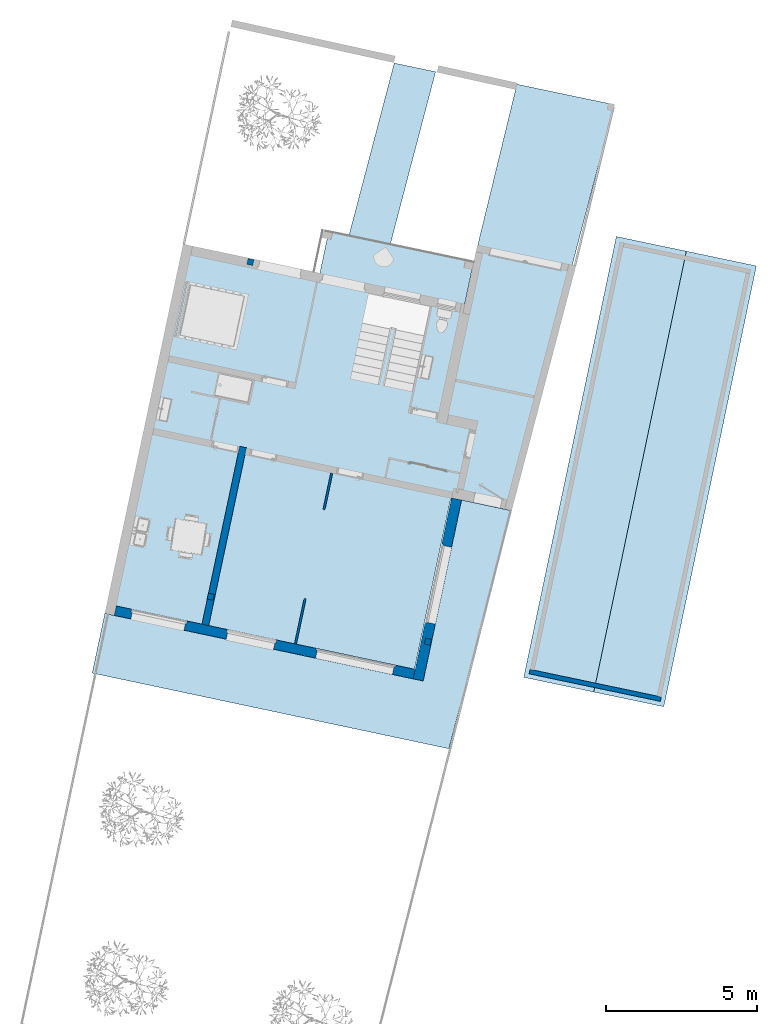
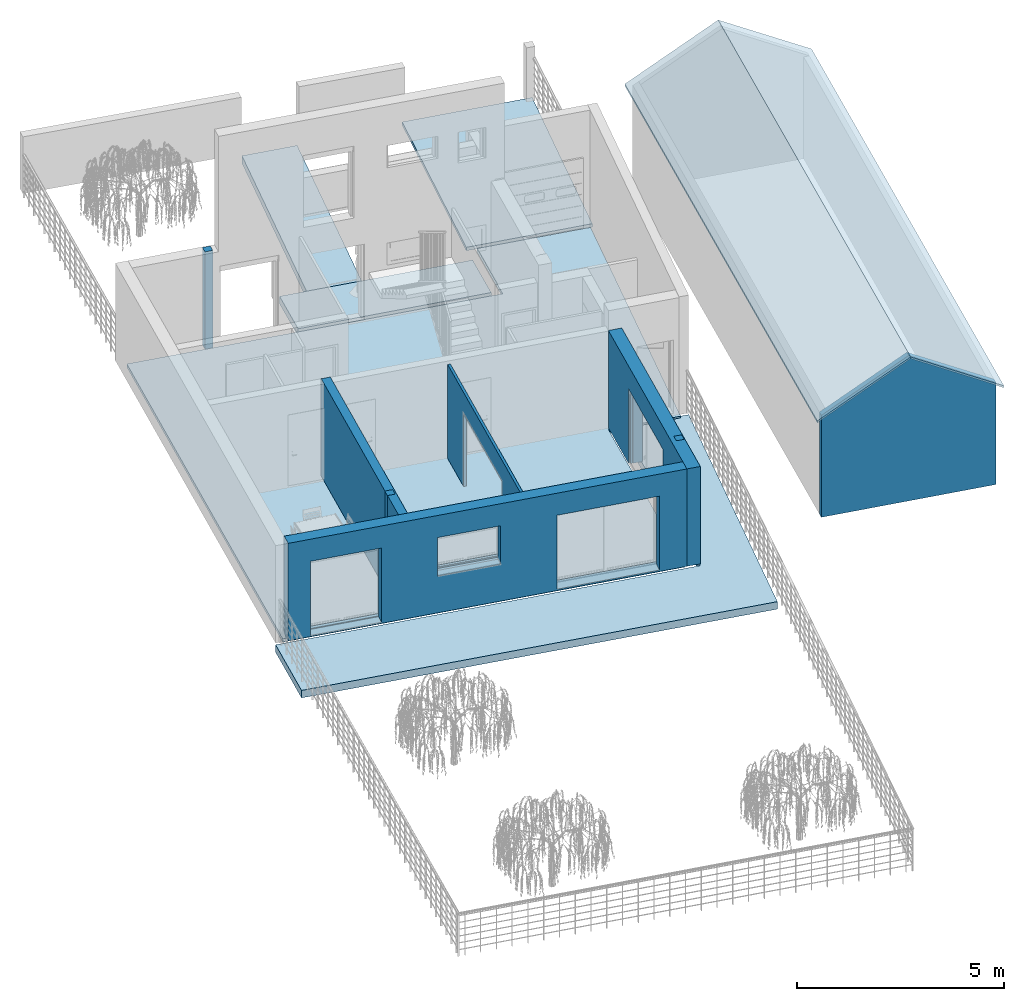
# One storey, part 1 of 20: 7 slabs, 5 walls, 3 columns, 5 openings, 1 element without a shape of its own.
"""IFC2X3 building model written with IfcOpenShell, lengths in metres."""

from ifc_helpers import new_model, entity, si_unit, converted_unit, derived_unit, direction, frame, frame_2d, origin, origin_2d_with_axis, place, context, subcontext, project, spatial, polyline, rectangle, outline, extrude, clip, bounded_halfspace, faceted_brep, source, transform, mapped, material, layer, layer_set, layer_usage, type_object, type_shapes, element, aggregate, save


model = new_model("IFC2X3")

# Units and contexts
model_context = context("Model", 3, precision=1e-05, world=origin(), true_north=direction((6.12303176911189e-17, 1.0)))
body_context = subcontext(model_context, "Body", "Model", "MODEL_VIEW")
ifc_project = project(units=[si_unit("LENGTHUNIT", "METRE"), si_unit("AREAUNIT", "SQUARE_METRE"), si_unit("VOLUMEUNIT", "CUBIC_METRE"), converted_unit("PLANEANGLEUNIT", "DEGREE", entity("IfcRatioMeasure", 0.0174532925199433), si_unit("PLANEANGLEUNIT", "RADIAN"), dimensions=[0, 0, 0, 0, 0, 0, 0]), si_unit("MASSUNIT", "GRAM", prefix="KILO"), derived_unit("MASSDENSITYUNIT", [(si_unit("MASSUNIT", "GRAM", prefix="KILO"), 1), (si_unit("LENGTHUNIT", "METRE"), -3)]), si_unit("TIMEUNIT", "SECOND"), si_unit("FREQUENCYUNIT", "HERTZ"), si_unit("THERMODYNAMICTEMPERATUREUNIT", "DEGREE_CELSIUS"), derived_unit("THERMALTRANSMITTANCEUNIT", [(si_unit("MASSUNIT", "GRAM", prefix="KILO"), 1), (si_unit("THERMODYNAMICTEMPERATUREUNIT", "KELVIN"), -1), (si_unit("TIMEUNIT", "SECOND"), -3)]), derived_unit("VOLUMETRICFLOWRATEUNIT", [(si_unit("LENGTHUNIT", "METRE"), 3), (si_unit("TIMEUNIT", "SECOND"), -1)]), si_unit("ELECTRICCURRENTUNIT", "AMPERE"), si_unit("ELECTRICVOLTAGEUNIT", "VOLT"), si_unit("POWERUNIT", "WATT"), si_unit("FORCEUNIT", "NEWTON", prefix="KILO"), si_unit("ILLUMINANCEUNIT", "LUX"), si_unit("LUMINOUSFLUXUNIT", "LUMEN"), si_unit("LUMINOUSINTENSITYUNIT", "CANDELA"), derived_unit("USERDEFINED", [(si_unit("MASSUNIT", "GRAM", prefix="KILO"), -1), (si_unit("LENGTHUNIT", "METRE"), -2), (si_unit("TIMEUNIT", "SECOND"), 3), (si_unit("LUMINOUSFLUXUNIT", "LUMEN"), 1)]), derived_unit("LINEARVELOCITYUNIT", [(si_unit("LENGTHUNIT", "METRE"), 1), (si_unit("TIMEUNIT", "SECOND"), -1)]), si_unit("PRESSUREUNIT", "PASCAL"), derived_unit("USERDEFINED", [(si_unit("LENGTHUNIT", "METRE"), -2), (si_unit("MASSUNIT", "GRAM", prefix="KILO"), 1), (si_unit("TIMEUNIT", "SECOND"), -2)])], contexts=[model_context])

# Site, building, storey
site_placement = place(None, origin())
site = spatial("IfcSite", under=ifc_project, at=site_placement, Name="Default", CompositionType="ELEMENT")
building_placement = place(site_placement, origin())
building = spatial("IfcBuilding", under=site, at=building_placement, CompositionType="ELEMENT")
storey_placement = place(building_placement, frame((0.0, 0.0, -0.0686871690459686)))
storey = spatial("IfcBuildingStorey", under=building, at=storey_placement, Name="RDC", CompositionType="ELEMENT", Elevation=-0.0686871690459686)

# Columns
ifc_material_1 = material(Name="Béton - Béton coulé sur place")
column_type_1 = type_object("IfcColumnType", Name="20 X 20", PredefinedType="COLUMN")
shared_shape_1 = source(origin(), body_context, "Body", "SweptSolid", [
    extrude(rectangle(XDim=0.200000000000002, YDim=0.2, at=origin_2d_with_axis()), frame((-18.9077382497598, 75.6113997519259, -0.0686871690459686), z_axis=(0.0, 0.0, 1.0), x_axis=(0.205556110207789, 0.978645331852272, 0.0)), (0.0, 0.0, 1.0), 2.86868716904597),
])
type_shapes(column_type_1, [shared_shape_1])
column_placement = place(storey_placement, frame((0.0, 0.0, 0.0686871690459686)))
element("IfcColumn", 1, at=column_placement, inside=storey, type_object=column_type_1, material=ifc_material_1, Name="M_Béton-Carré-Poteau:20 X 20", ObjectType="M_Béton-Carré-Poteau:20 X 20", context=body_context, shape_type="MappedRepresentation", body=[
    mapped(shared_shape_1, transform((0.0, 0.0, 0.0), scale=1.0)),
])
column_type_2 = type_object("IfcColumnType", Name="20 X 20", PredefinedType="COLUMN")
shared_shape_2 = source(origin(), body_context, "Body", "SweptSolid", [
    extrude(rectangle(XDim=0.2, YDim=0.2, at=origin_2d_with_axis()), frame((0.0, 0.0, -0.0686871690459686), z_axis=(0.0, 0.0, 1.0), x_axis=(0.0, -1.0, 0.0)), (0.0, 0.0, 1.0), 2.86868716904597),
])
type_shapes(column_type_2, [shared_shape_2])
for number, where, z_axis, x_axis in (
    (2, (-17.5943408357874, 86.6890916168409, 0.0686871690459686), (0.0, 0.0, 1.0), (-0.978645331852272, 0.205556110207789, 0.0)),
    (3, (-11.7156370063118, 74.1211969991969, 0.0686871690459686), (0.0, 0.0, 1.0), (-0.978645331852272, 0.205556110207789, 0.0)),
):
    element("IfcColumn", number, at=place(storey_placement, frame(where, z_axis=z_axis, x_axis=x_axis)), inside=storey, type_object=column_type_2, material=ifc_material_1, Name="M_Béton-Carré-Poteau:20 X 20", ObjectType="M_Béton-Carré-Poteau:20 X 20", context=body_context, shape_type="MappedRepresentation", body=[
        mapped(shared_shape_2, transform((0.0, 0.0, 0.0), scale=1.0)),
    ])

# Slabs
ifc_material_2 = material(Name="Peinture - Or")
ifc_layer_1 = layer(ifc_material_2, 0.1)
ifc_layer_set_1 = layer_set([ifc_layer_1], Name="Sol:Dalle Béton butume commun 10 cm 2")
ifc_layer_usage_1 = layer_usage(ifc_layer_set_1, "AXIS3", "POSITIVE", 0.0)
slab_type_1 = type_object("IfcSlabType", Name="Sol:Dalle Béton butume commun 10 cm 2", PredefinedType="FLOOR", material=ifc_layer_set_1)
slab_1_placement = place(storey_placement, origin())
element("IfcSlab", 4, at=slab_1_placement, inside=storey, type_object=slab_type_1, material=ifc_layer_usage_1, Name="Sol:Dalle Béton butume commun 10 cm 2", ObjectType="Sol:Dalle Béton butume commun 10 cm 2", PredefinedType="FLOOR", context=body_context, shape_type="SweptSolid", body=[
    extrude(outline(polyline([(-7.98877034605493, 4.09640864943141), (-7.98877034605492, -8.06359135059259), (2.2064421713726, -8.06359135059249), (2.20644217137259, -2.12922594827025), (4.03899946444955, -2.12922594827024), (4.43277347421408, 6.09640864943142), (1.54644170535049, 6.09640864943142), (1.54644170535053, 4.09640864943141), (-7.98877034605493, 4.09640864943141)])), frame((-12.6864413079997, 81.3582309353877, 0.0), z_axis=(0.0, 0.0, 1.0), x_axis=(0.978238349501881, -0.207484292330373, 0.0)), (0.0, 0.0, -1.0), 0.1),
])
ifc_material_3 = material(Name="TERRASSE EXT")
ifc_layer_2 = layer(ifc_material_3, 0.02)
ifc_material_4 = material(Name="planchers interieurs")
ifc_layer_3 = layer(ifc_material_4, 0.2)
ifc_layer_set_2 = layer_set([ifc_layer_2, ifc_layer_3], Name="Sol:terrasse  EXT CARRELE")
ifc_layer_usage_2 = layer_usage(ifc_layer_set_2, "AXIS3", "POSITIVE", 0.0)
slab_type_2 = type_object("IfcSlabType", Name="Sol:terrasse  EXT CARRELE", PredefinedType="FLOOR", material=ifc_layer_set_2)
slab_2_placement = place(storey_placement, origin())
element("IfcSlab", 5, at=slab_2_placement, inside=storey, type_object=slab_type_2, material=ifc_layer_usage_2, Name="Sol:terrasse  EXT CARRELE", ObjectType="Sol:terrasse  EXT CARRELE", PredefinedType="FLOOR", context=body_context, shape_type="SweptSolid", body=[
    extrude(outline(polyline([(-7.68299505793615, -1.36879085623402), (-7.68285655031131, -3.38788246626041), (4.39082925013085, -3.38705378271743), (4.7897240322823, 4.75552374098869), (3.09264916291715, 4.75699422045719), (3.09264916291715, -1.36879085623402), (-7.68299505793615, -1.36879085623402)])), frame((-14.6147123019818, 74.8004948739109, -0.05), z_axis=(0.0, 0.0, 1.0), x_axis=(0.978224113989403, -0.207551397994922, 0.0)), (0.0, 0.0, -1.0), 0.22),
])
ifc_layer_usage_3 = layer_usage(ifc_layer_set_2, "AXIS3", "POSITIVE", 0.0)
slab_type_3 = type_object("IfcSlabType", Name="Sol:terrasse  EXT CARRELE", PredefinedType="FLOOR", material=ifc_layer_set_2)
slab_3_placement = place(storey_placement, origin())
element("IfcSlab", 6, at=slab_3_placement, inside=storey, type_object=slab_type_3, material=ifc_layer_usage_3, Name="Sol:terrasse  EXT CARRELE", ObjectType="Sol:terrasse  EXT CARRELE", PredefinedType="FLOOR", context=body_context, shape_type="SweptSolid", body=[
    extrude(outline(polyline([(-2.98858599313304, -0.699999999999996), (2.91874994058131, -0.699999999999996), (2.988585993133, 0.700000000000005), (-2.91874994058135, 0.700000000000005), (-2.98858599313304, -0.699999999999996)])), frame((-12.8976450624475, 90.2767664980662, -0.05), z_axis=(0.0, 0.0, -1.0), x_axis=(-0.254023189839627, -0.967198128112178, 0.0)), (0.0, 0.0, 1.0), 0.22),
])
ifc_layer_usage_4 = layer_usage(ifc_layer_set_2, "AXIS3", "POSITIVE", 0.0)
slab_type_4 = type_object("IfcSlabType", Name="Sol:terrasse  EXT CARRELE", PredefinedType="FLOOR", material=ifc_layer_set_2)
slab_4_placement = place(storey_placement, origin())
element("IfcSlab", 7, at=slab_4_placement, inside=storey, type_object=slab_type_4, material=ifc_layer_usage_4, Name="Sol:terrasse  EXT CARRELE", ObjectType="Sol:terrasse  EXT CARRELE", PredefinedType="FLOOR", context=body_context, shape_type="SweptSolid", body=[
    extrude(rectangle(XDim=1.4399991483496, YDim=4.90385703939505, at=frame_2d((-8.43769498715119e-15, 1.77635683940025e-15), x_axis=(1.0, 0.0))), frame((-12.7520738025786, 86.4961294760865, -0.05), z_axis=(0.0, 0.0, -1.0), x_axis=(-0.205556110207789, -0.978645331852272, 0.0)), (0.0, 0.0, 1.0), 0.22),
])
ifc_material_5 = material(Name="Béton rue")
ifc_layer_4 = layer(ifc_material_5, 0.1)
ifc_layer_set_3 = layer_set([ifc_layer_4], Name="Sol:Dalle Béton  rue - 10 cm")
ifc_layer_usage_5 = layer_usage(ifc_layer_set_3, "AXIS3", "POSITIVE", 0.0)
slab_type_5 = type_object("IfcSlabType", Name="Sol:Dalle Béton  rue - 10 cm", PredefinedType="FLOOR", material=ifc_layer_set_3)
slab_5_placement = place(storey_placement, origin())
element("IfcSlab", 8, at=slab_5_placement, inside=storey, type_object=slab_type_5, material=ifc_layer_usage_5, Name="Sol:Dalle Béton  rue - 10 cm", ObjectType="Sol:Dalle Béton  rue - 10 cm", PredefinedType="FLOOR", context=body_context, shape_type="SweptSolid", body=[
    extrude(outline(polyline([(-1.53803303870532, -2.74862589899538), (1.76196696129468, -2.74862589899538), (1.48794579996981, 2.7486258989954), (-1.71187972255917, 2.74862589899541), (-1.53803303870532, -2.74862589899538)])), frame((-7.8324526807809, 89.5719451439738, -0.05), z_axis=(0.0, 0.0, -1.0), x_axis=(0.978645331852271, -0.205556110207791, 0.0)), (0.0, 0.0, 1.0), 0.1),
])

# Roof, slabs
roof_placement = place(storey_placement, frame((-8.54607291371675, 71.9663239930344, 2.91339745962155)))
roof = element("IfcRoof", 9, at=roof_placement, inside=storey, Name="Toit de base:Toit - 100 rouge", ObjectType="Toit de base:Toit - 100 rouge", ShapeType="NOTDEFINED")
ifc_material_6 = material(Name="Appui")
ifc_layer_5 = layer(ifc_material_6, 0.05)
ifc_layer_set_4 = layer_set([ifc_layer_5], Name="Toit de base:Toit - 100 rouge")
slab_6_placement = place(roof_placement, origin())
slab_6 = element("IfcSlab", 10, at=slab_6_placement, material=ifc_layer_set_4, Name="Toit de base:Toit - 100 rouge", ObjectType="Toit de base:Toit - 100 rouge", PredefinedType="ROOF", context=body_context, shape_type="SweptSolid", body=[
    extrude(rectangle(XDim=14.9140350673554, YDim=2.73664027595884, at=frame_2d((3.77475828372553e-15, -8.88178419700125e-16), x_axis=(-0.235661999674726, -0.971835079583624))), frame((5.01168411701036, 7.54137276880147, 0.684160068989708), z_axis=(0.489326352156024, -0.102760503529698, 0.86602540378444), x_axis=(0.872100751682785, 0.0576578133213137, -0.485917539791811)), (-0.485917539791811, 0.117830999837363, 0.86602540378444), 0.0577350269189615),
])
slab_7_placement = place(roof_placement, origin())
slab_7 = element("IfcSlab", 11, at=slab_7_placement, material=ifc_layer_set_4, Name="Toit de base:Toit - 100 rouge", ObjectType="Toit de base:Toit - 100 rouge", PredefinedType="ROOF", context=body_context, shape_type="SweptSolid", body=[
    extrude(rectangle(XDim=2.73664027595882, YDim=14.9140350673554, at=frame_2d((-8.10462807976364e-15, -7.99360577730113e-15), x_axis=(-0.971835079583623, 0.23566199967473))), frame((2.69227720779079, 8.02845755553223, 0.684160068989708), z_axis=(-0.489326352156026, 0.102760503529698, 0.866025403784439), x_axis=(0.872100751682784, 0.057657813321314, 0.485917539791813)), (0.485917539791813, -0.117830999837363, 0.866025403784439), 0.0577350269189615),
])
aggregate(roof, [slab_6, slab_7])

# Wall, opening
ifc_material_7 = material(Name="Enduit blanc cassé2")
ifc_layer_6 = layer(ifc_material_7, 0.02)
ifc_material_8 = material(Name="Parpaing")
ifc_layer_7 = layer(ifc_material_8, 0.2)
ifc_material_9 = material(Name="Isolant")
ifc_layer_8 = layer(ifc_material_9, 0.12)
ifc_layer_set_5 = layer_set([ifc_layer_6, ifc_layer_7, ifc_layer_8], Name="Mur de base:Ext. Parpaing 20 + Isolant 12 enduit blanc cassé 2")
ifc_layer_usage_6 = layer_usage(ifc_layer_set_5, "AXIS2", "POSITIVE", -0.17)
wall_type_1 = type_object("IfcWallType", Name="Mur de base:Ext. Parpaing 20 + Isolant 12 enduit blanc cassé 2", PredefinedType="STANDARD", material=ifc_layer_set_5)
wall_1_placement = place(storey_placement, frame((-12.0401167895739, 72.8555040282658, 0.0), z_axis=(0.0, 0.0, 1.0), x_axis=(0.207484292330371, 0.978238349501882, 0.0)))
wall_1 = element("IfcWallStandardCase", 12, at=wall_1_placement, inside=storey, type_object=wall_type_1, material=ifc_layer_usage_6, Name="Mur de base:Ext. Parpaing 20 + Isolant 12 enduit blanc cassé 2", ObjectType="Mur de base:Ext. Parpaing 20 + Isolant 12 enduit blanc cassé 2", context=body_context, shape_type="SweptSolid", body=[
    extrude(rectangle(XDim=6.12478728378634, YDim=0.34, at=frame_2d((3.06239364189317, 1.55431223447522e-15), x_axis=(-1.0, 0.0))), origin(), (0.0, 0.0, 1.0), 2.86868716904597),
])
opening_1_placement = place(wall_1_placement, frame((1.72181819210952, 0.456950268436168, -0.0350000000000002), z_axis=(0.0, 0.0, 1.0), x_axis=(0.207484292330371, -0.978238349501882, 0.0)))
element("IfcOpeningElement", 13, at=opening_1_placement, cuts=wall_1, Name="Mur de base:Ext. Parpaing 20 + Isolant 12 enduit blanc cassé 2", ObjectType="Opening", context=body_context, shape_type="Brep", body=[
    faceted_brep([(0.401077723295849, 0.122415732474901, 0.0350000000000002), (0.72683378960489, 0.0533228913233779, 0.0), (0.978238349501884, 0.0, 0.0), (0.978238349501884, 0.0, 2.185), (0.420642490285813, 0.118266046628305, 2.185), (0.420642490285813, 0.118266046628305, 0.0350000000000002), (0.539459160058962, 2.75090400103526, 0.035), (0.539459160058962, 2.75090400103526, 2.185), (0.862277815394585, 2.68243418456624, 2.185), (0.862277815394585, 2.68243418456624, 0.0350000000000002), (0.0, 0.207484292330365, 0.035), (0.872652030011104, 2.73134610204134, 0.0350000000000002), (0.921563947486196, 2.72097188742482, 0.0350000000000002), (0.913264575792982, 2.68184235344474, 0.0350000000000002), (0.96217649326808, 2.67146813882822, 0.0350000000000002), (0.960101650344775, 2.6616857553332, 0.0349999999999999), (0.940536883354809, 2.66583544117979, 0.0350000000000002), (0.418567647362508, 0.108483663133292, 0.0350000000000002), (0.36965572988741, 0.118857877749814, 0.0350000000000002), (0.361356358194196, 0.0797283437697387, 0.0350000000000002), (0.312444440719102, 0.0901025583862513, 0.0350000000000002), (0.322818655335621, 0.139014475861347, 0.0350000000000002), (0.0, 0.207484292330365, 2.185), (0.322818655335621, 0.139014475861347, 2.185), (1.51769750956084, 2.54341970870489, 0.0), (1.51769750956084, 2.54341970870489, 2.185), (1.26629294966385, 2.59674260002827, 0.0), (0.361356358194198, 0.07972834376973, 2.235), (0.312444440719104, 0.0901025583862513, 2.235), (0.36965572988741, 0.118857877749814, 2.195), (0.913264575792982, 2.68184235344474, 2.195), (0.921563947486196, 2.72097188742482, 2.235), (0.418567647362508, 0.108483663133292, 2.195), (0.960101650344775, 2.6616857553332, 2.185), (0.96217649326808, 2.67146813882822, 2.195), (0.872652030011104, 2.73134610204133, 2.235)], [[[0, 1, 2, 3, 4, 5]], [[6, 7, 8, 9]], [[10, 6, 9, 11, 12, 13, 14, 15, 16, 0, 5, 17, 18, 19, 20, 21]], [[10, 22, 7, 6]], [[7, 22, 23, 8]], [[3, 2, 24, 25]], [[2, 1, 26, 24]], [[1, 0, 16, 26]], [[20, 19, 27, 28]], [[19, 18, 29, 30, 13, 12, 31, 27]], [[18, 17, 32, 29]], [[17, 5, 4, 33, 15, 14, 34, 32]], [[21, 20, 28, 35, 11, 9, 8, 23]], [[28, 27, 31, 35]], [[30, 29, 32, 34]], [[31, 12, 11, 35]], [[13, 30, 34, 14]], [[3, 25, 33, 4]], [[25, 24, 26, 16, 15, 33]], [[22, 10, 21, 23]]]),
])

# Wall, openings
ifc_layer_9 = layer(ifc_material_7, 0.02)
ifc_layer_10 = layer(ifc_material_8, 0.2)
ifc_layer_11 = layer(ifc_material_9, 0.1)
ifc_layer_set_6 = layer_set([ifc_layer_9, ifc_layer_10, ifc_layer_11], Name="Mur de base:Ext. Parpaing 20 + Isolant 10 enduit blanc cassé")
ifc_layer_usage_7 = layer_usage(ifc_layer_set_6, "AXIS2", "POSITIVE", -0.16)
wall_type_2 = type_object("IfcWallType", Name="Mur de base:Ext. Parpaing 20 + Isolant 10 enduit blanc cassé", PredefinedType="STANDARD", material=ifc_layer_set_6)
wall_2_placement = place(storey_placement, frame((-22.068308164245, 75.1460421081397, 0.0), z_axis=(0.0, 0.0, 1.0), x_axis=(0.978238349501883, -0.207484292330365, 0.0)))
wall_2 = element("IfcWallStandardCase", 14, at=wall_2_placement, inside=storey, type_object=wall_type_2, material=ifc_layer_usage_7, Name="Mur de base:Ext. Parpaing 20 + Isolant 10 enduit blanc cassé", ObjectType="Mur de base:Ext. Parpaing 20 + Isolant 10 enduit blanc cassé", context=body_context, shape_type="SweptSolid", body=[
    extrude(rectangle(XDim=10.1152120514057, YDim=0.319999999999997, at=frame_2d((5.05760602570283, -1.1518563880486e-15), x_axis=(-1.0, 0.0))), origin(), (0.0, 0.0, 1.0), 2.86868716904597),
])
opening_2_placement = place(wall_2_placement, frame((0.637489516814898, -0.865344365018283, 0.0348073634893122), z_axis=(0.0, 0.0, 1.0), x_axis=(0.978238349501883, 0.207484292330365, 0.0)))
element("IfcOpeningElement", 15, at=opening_2_placement, cuts=wall_2, Name="Mur de base:Ext. Parpaing 20 + Isolant 10 enduit blanc cassé", ObjectType="Opening", context=body_context, shape_type="Brep", body=[
    faceted_brep([(0.20748429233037, 1.35171007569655, 2.18387980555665), (1.96831332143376, 0.978238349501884, 2.18387980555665), (1.96831332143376, 0.978238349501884, 0.0338798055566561), (0.20748429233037, 1.35171007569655, 0.0338798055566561), (0.0, 0.373471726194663, 2.18387980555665), (0.0, 0.373471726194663, 0.0338798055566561), (1.76082902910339, 0.0, 0.0338798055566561), (1.76082902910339, 0.0, 2.18387980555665), (0.139636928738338, 1.03182613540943, 2.18387980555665), (1.90046595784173, 0.658354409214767, 2.18387980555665), (1.90046595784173, 0.658354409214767, 0.0338798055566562), (1.9395954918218, 0.650055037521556, 0.0338798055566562), (1.91614976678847, 0.53951410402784, 0.0338798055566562), (1.87702023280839, 0.54781347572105, 0.0338798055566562), (1.87743520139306, 0.549769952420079, 0.0338798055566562), (0.116606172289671, 0.923241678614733, 0.0338798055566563), (0.116191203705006, 0.921285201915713, 0.0338798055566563), (0.0770616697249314, 0.929584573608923, 0.0338798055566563), (0.100507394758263, 1.04012550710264, 0.0338798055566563), (0.139636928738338, 1.03182613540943, 0.0338798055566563), (0.100507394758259, 1.04012550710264, 2.22387980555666), (1.9395954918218, 0.650055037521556, 2.22387980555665), (1.91614976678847, 0.53951410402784, 2.22387980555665), (1.92593215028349, 0.537439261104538, 2.22387980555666), (1.92593215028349, 0.537439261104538, 2.40387980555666), (0.0672792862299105, 0.931659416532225, 2.40387980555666), (0.0672792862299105, 0.931659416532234, 2.22387980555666), (0.0770616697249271, 0.929584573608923, 2.22387980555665), (0.116191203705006, 0.921285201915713, 2.18387980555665), (1.87702023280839, 0.54781347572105, 2.18387980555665), (1.95352756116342, 0.667544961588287, 2.40387980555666), (1.95352756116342, 0.667544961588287, 2.22387980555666), (0.0948746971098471, 1.06176511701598, 2.40387980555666), (0.0948746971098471, 1.06176511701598, 2.22387980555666), (1.87743520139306, 0.549769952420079, 0.0220471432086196), (0.116606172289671, 0.923241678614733, 0.0220471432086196), (1.8251491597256, 0.303253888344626, 0.0338798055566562), (0.0643201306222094, 0.67672561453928, 0.0338798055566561), (0.0643201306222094, 0.67672561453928, 0.0), (1.8251491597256, 0.303253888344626, 0.0)], [[[0, 1, 2, 3]], [[4, 5, 6, 7]], [[0, 8, 9, 1]], [[1, 9, 10, 2]], [[2, 10, 11, 12, 13, 14, 15, 16, 17, 18, 19, 3]], [[3, 19, 8, 0]], [[10, 9, 8, 19, 18, 20, 21, 11]], [[11, 21, 22, 12]], [[12, 22, 23, 24, 25, 26, 27, 17, 16, 28, 29, 13]], [[18, 17, 27, 20]], [[30, 24, 23, 31]], [[32, 33, 26, 25]], [[30, 32, 25, 24]], [[23, 22, 21, 20, 27, 26, 33, 31]], [[31, 33, 32, 30]], [[34, 35, 15, 14]], [[36, 37, 38, 39]], [[39, 38, 35, 34]], [[4, 28, 16, 15, 35, 38, 37, 5]], [[5, 37, 36, 6]], [[6, 36, 39, 34, 14, 13, 29, 7]], [[7, 29, 28, 4]]]),
])
opening_3_placement = place(wall_2_placement, frame((3.85887957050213, -0.824750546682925, 1.08868716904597), z_axis=(0.0, 0.0, 1.0), x_axis=(0.978238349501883, 0.207484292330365, 0.0)))
element("IfcOpeningElement", 16, at=opening_3_placement, cuts=wall_2, Name="Mur de base:Ext. Parpaing 20 + Isolant 10 enduit blanc cassé", ObjectType="Opening", context=body_context, shape_type="Brep", body=[
    faceted_brep([(0.207484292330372, 1.31021321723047, 1.13), (1.77266565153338, 0.978238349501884, 1.13), (1.77266565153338, 0.978238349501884, 0.0799999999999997), (0.207484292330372, 1.31021321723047, 0.0799999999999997), (0.0, 0.331974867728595, 1.13), (0.0, 0.331974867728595, 0.0799999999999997), (1.56518135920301, 0.0, 0.0799999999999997), (1.56518135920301, 0.0, 1.13), (0.13963692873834, 0.990329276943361, 1.13), (1.70481828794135, 0.658354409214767, 1.13), (1.70481828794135, 0.658354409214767, 0.0799999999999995), (1.74394782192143, 0.650055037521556, 0.0799999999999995), (1.72050209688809, 0.53951410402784, 0.0799999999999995), (1.68137256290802, 0.54781347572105, 0.0799999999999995), (1.68863451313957, 0.582051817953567, 0.0799999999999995), (0.123453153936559, 0.914026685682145, 0.0799999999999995), (0.116191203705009, 0.879788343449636, 0.0799999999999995), (0.0770616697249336, 0.888087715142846, 0.0799999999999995), (0.100507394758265, 0.998628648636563, 0.0799999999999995), (0.13963692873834, 0.990329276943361, 0.0799999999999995), (0.100507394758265, 0.998628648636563, 1.17), (1.74394782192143, 0.650055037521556, 1.16999999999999), (1.72050209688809, 0.53951410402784, 1.16999999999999), (1.73028448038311, 0.537439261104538, 1.17), (1.73028448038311, 0.537439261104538, 1.35), (0.0672792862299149, 0.890162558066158, 1.35), (0.0672792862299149, 0.890162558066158, 1.17), (0.0770616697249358, 0.888087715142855, 1.16999999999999), (0.116191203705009, 0.879788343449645, 1.13), (1.68137256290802, 0.54781347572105, 1.13), (1.75787989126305, 0.667544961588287, 1.35), (1.75787989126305, 0.667544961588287, 1.17), (0.0948746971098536, 1.02026825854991, 1.35), (0.0948746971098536, 1.02026825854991, 1.17), (1.68137256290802, 0.54781347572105, 0.0), (0.116191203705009, 0.879788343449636, 0.0), (0.123453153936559, 0.914026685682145, 0.0349999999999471), (1.68863451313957, 0.582051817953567, 0.0349999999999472), (1.62638922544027, 0.288580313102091, 0.0799999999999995), (0.0612078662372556, 0.620555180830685, 0.0799999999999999), (0.0612078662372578, 0.620555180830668, 0.0), (1.62638922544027, 0.288580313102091, 0.0)], [[[0, 1, 2, 3]], [[4, 5, 6, 7]], [[0, 8, 9, 1]], [[1, 9, 10, 2]], [[2, 10, 11, 12, 13, 14, 15, 16, 17, 18, 19, 3]], [[3, 19, 8, 0]], [[10, 9, 8, 19, 18, 20, 21, 11]], [[11, 21, 22, 12]], [[12, 22, 23, 24, 25, 26, 27, 17, 16, 28, 29, 13]], [[18, 17, 27, 20]], [[30, 24, 23, 31]], [[32, 33, 26, 25]], [[30, 32, 25, 24]], [[23, 22, 21, 20, 27, 26, 33, 31]], [[31, 33, 32, 30]], [[34, 35, 36, 37]], [[37, 36, 15, 14]], [[38, 39, 40, 41]], [[41, 40, 35, 34]], [[4, 28, 16, 15, 36, 35, 40, 39, 5]], [[5, 39, 38, 6]], [[6, 38, 41, 34, 37, 14, 13, 29, 7]], [[7, 29, 28, 4]]]),
])
opening_4_placement = place(wall_2_placement, frame((6.92714135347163, -1.02771963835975, 0.0336871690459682), z_axis=(0.0, 0.0, 1.0), x_axis=(0.978238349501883, 0.207484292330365, 0.0)))
element("IfcOpeningElement", 17, at=opening_4_placement, cuts=wall_2, Name="Mur de base:Ext. Parpaing 20 + Isolant 10 enduit blanc cassé", ObjectType="Opening", context=body_context, shape_type="Brep", body=[
    faceted_brep([(2.75090400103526, 0.978238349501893, 2.185), (0.207484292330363, 1.51769750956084, 2.185), (0.13693963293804, 1.18509647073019, 2.185), (2.68035934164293, 0.645637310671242, 2.185), (0.0880277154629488, 1.19547068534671, 0.0350000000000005), (0.0776535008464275, 1.14655876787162, 0.0350000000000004), (0.0776535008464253, 1.14655876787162, 2.235), (0.0880277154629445, 1.19547068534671, 2.235), (0.116783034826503, 1.1382593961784, 0.0350000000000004), (0.116783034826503, 1.1382593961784, 2.195), (2.67976751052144, 0.594650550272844, 2.195), (2.67976751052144, 0.594650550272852, 0.0350000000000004), (2.71889704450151, 0.586351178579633, 0.0350000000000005), (2.71889704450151, 0.586351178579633, 2.235), (0.120340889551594, 1.10683740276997, 0.0350000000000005), (0.0512480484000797, 0.781081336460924, 0.0), (0.0, 0.539459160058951, 0.0), (0.0, 0.539459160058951, 2.185), (0.116191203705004, 1.08727263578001, 2.185), (0.116191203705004, 1.08727263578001, 0.0350000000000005), (2.75090400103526, 0.978238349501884, 0.0350000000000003), (2.68035934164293, 0.645637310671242, 0.0350000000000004), (0.207484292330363, 1.51769750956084, 0.0350000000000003), (2.72927125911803, 0.635263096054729, 0.0350000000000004), (2.66939329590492, 0.545738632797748, 0.0350000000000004), (2.6596109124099, 0.54781347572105, 0.0350000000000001), (2.66376059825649, 0.567378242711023, 0.0350000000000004), (0.106408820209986, 1.0893474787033, 0.0350000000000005), (0.13693963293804, 1.18509647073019, 0.0350000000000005), (2.54341970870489, 0.0, 0.0), (2.54341970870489, 0.0, 2.185), (2.59466775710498, 0.241622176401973, 0.0), (0.106408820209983, 1.0893474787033, 2.195), (2.6596109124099, 0.54781347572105, 2.185), (2.66939329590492, 0.545738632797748, 2.195), (2.72927125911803, 0.635263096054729, 2.235)], [[[0, 1, 2, 3]], [[4, 5, 6, 7]], [[5, 8, 9, 10, 11, 12, 13, 6]], [[14, 15, 16, 17, 18, 19]], [[20, 0, 3, 21]], [[22, 20, 21, 23, 12, 11, 24, 25, 26, 14, 19, 27, 8, 5, 4, 28]], [[22, 1, 0, 20]], [[17, 16, 29, 30]], [[16, 15, 31, 29]], [[15, 14, 26, 31]], [[8, 27, 32, 9]], [[27, 19, 18, 33, 25, 24, 34, 32]], [[28, 4, 7, 35, 23, 21, 3, 2]], [[7, 6, 13, 35]], [[10, 9, 32, 34]], [[13, 12, 23, 35]], [[11, 10, 34, 24]], [[30, 29, 31, 26, 25, 33]], [[1, 22, 28, 2]], [[17, 30, 33, 18]]]),
])

# Wall, opening
ifc_material_10 = material(Name="Blanc - Element de salle de bains")
ifc_layer_12 = layer(ifc_material_10, 0.07)
ifc_layer_set_7 = layer_set([ifc_layer_12], Name="Mur de base:Int.  Platre 70 mm en blanc")
ifc_layer_usage_8 = layer_usage(ifc_layer_set_7, "AXIS2", "POSITIVE", -0.035)
wall_type_3 = type_object("IfcWallType", Name="Mur de base:Int.  Platre 70 mm en blanc", PredefinedType="STANDARD", material=ifc_layer_set_7)
wall_3_placement = place(storey_placement, frame((-14.902967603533, 79.6977646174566, 0.0), z_axis=(0.0, 0.0, 1.0), x_axis=(-0.207484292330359, -0.978238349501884, 0.0)))
wall_3 = element("IfcWallStandardCase", 18, at=wall_3_placement, inside=storey, type_object=wall_type_3, material=ifc_layer_usage_8, Name="Mur de base:Int.  Platre 70 mm en blanc", ObjectType="Mur de base:Int.  Platre 70 mm en blanc", context=body_context, shape_type="SweptSolid", body=[
    extrude(rectangle(XDim=5.77936513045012, YDim=0.0699999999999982, at=frame_2d((2.88968256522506, 8.77770078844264e-16), x_axis=(-1.0, 0.0))), origin(), (0.0, 0.0, 1.0), 2.76868716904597),
])
opening_5_placement = place(wall_3_placement, frame((4.23936513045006, 0.0350000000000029, 0.0)))
element("IfcOpeningElement", 19, at=opening_5_placement, cuts=wall_3, Name="Ouverture en rectangle:Ouverture en rectangle 3m:1", ObjectType="Opening", context=body_context, shape_type="SweptSolid", body=[
    extrude(rectangle(XDim=2.14999999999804, YDim=3.0, at=frame_2d((1.07499999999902, 1.5), x_axis=(1.0, 0.0))), frame((0.0, 0.0, 0.0), z_axis=(0.0, -1.0, 0.0), x_axis=(0.0, 0.0, 1.0)), (0.0, 0.0, 1.0), 0.07),
])

# Walls
ifc_layer_13 = layer(ifc_material_7, 0.015)
ifc_layer_14 = layer(ifc_material_8, 0.2)
ifc_layer_15 = layer(ifc_material_7, 0.015)
ifc_layer_set_8 = layer_set([ifc_layer_13, ifc_layer_14, ifc_layer_15], Name="Mur de base:Ext. Parpaing 20 + 2 x 1.5")
ifc_layer_usage_9 = layer_usage(ifc_layer_set_8, "AXIS2", "POSITIVE", -0.115)
wall_type_4 = type_object("IfcWallType", Name="Mur de base:Ext. Parpaing 20 + 2 x 1.5", PredefinedType="STANDARD", material=ifc_layer_set_8)
wall_4_placement = place(storey_placement, frame((-17.8367983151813, 80.565369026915, 0.0), z_axis=(0.0, 0.0, 1.0), x_axis=(-0.207484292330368, -0.978238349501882, 0.0)))
element("IfcWallStandardCase", 20, at=wall_4_placement, inside=storey, type_object=wall_type_4, material=ifc_layer_usage_9, Name="Mur de base:Ext. Parpaing 20 + 2 x 1.5", ObjectType="Mur de base:Ext. Parpaing 20 + 2 x 1.5", context=body_context, shape_type="SweptSolid", body=[
    extrude(rectangle(XDim=6.01936524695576, YDim=0.23, at=frame_2d((3.00968262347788, 4.71844785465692e-16), x_axis=(-1.0, 0.0))), origin(), (0.0, 0.0, 1.0), 2.86868716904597),
])
ifc_material_11 = material(Name="Mur par défaut")
ifc_layer_16 = layer(ifc_material_11, 0.15)
ifc_layer_set_9 = layer_set([ifc_layer_16], Name="Mur de base:Générique - Ext. 150 mm")
ifc_layer_usage_10 = layer_usage(ifc_layer_set_9, "AXIS2", "NEGATIVE", 0.075)
wall_type_5 = type_object("IfcWallType", Name="Mur de base:Générique - Ext. 150 mm", PredefinedType="STANDARD", material=ifc_layer_set_9)
wall_5_placement = place(storey_placement, frame((-4.00781477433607, 72.2173490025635, 0.0), z_axis=(0.0, 0.0, 1.0), x_axis=(-0.97865270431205, 0.205521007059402, 0.0)))
element("IfcWallStandardCase", 21, at=wall_5_placement, inside=storey, type_object=wall_type_5, material=ifc_layer_usage_10, Name="Mur de base:Générique - Ext. 150 mm", ObjectType="Mur de base:Générique - Ext. 150 mm", context=body_context, shape_type="Clipping", body=[
    clip(clip(extrude(rectangle(XDim=4.44000000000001, YDim=0.149999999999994, at=frame_2d((2.22, 1.73472347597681e-16), x_axis=(-1.0, 0.0))), origin(), (0.0, 0.0, 1.0), 4.28171759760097), bounded_halfspace(frame((0.0, -0.0750000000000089, 3.0), z_axis=(-0.499999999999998, 0.0, 0.86602540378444), x_axis=(0.0, -1.0, 0.0)), False, frame((0.0, -0.0750000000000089, 3.0)), polyline([(0.0, 0.0), (2.22000000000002, 0.0), (2.22000000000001, 0.150000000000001), (0.0, 0.150000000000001), (0.0, 0.0)]))), bounded_halfspace(frame((2.22000000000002, -0.0750000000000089, 4.28171759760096), z_axis=(0.5, 0.0, 0.866025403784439), x_axis=(0.0, 1.0, 0.0)), False, frame((2.22000000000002, -0.0750000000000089, 4.28171759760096)), polyline([(0.0, 0.0), (2.06999999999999, 0.0), (2.21999999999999, 0.0), (2.21999999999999, 0.150000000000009), (0.0, 0.150000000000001), (0.0, 0.0)]))),
])

save(model, "model.ifc")
